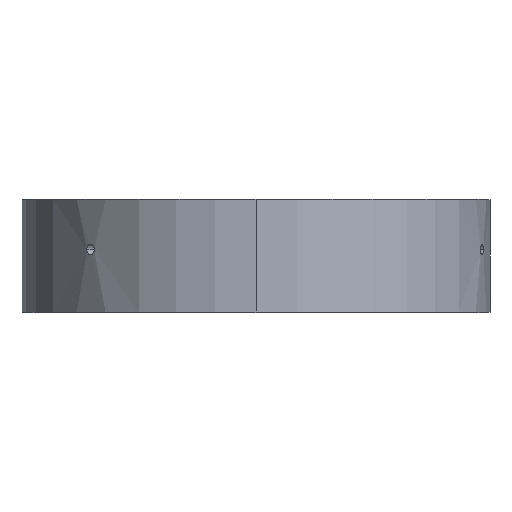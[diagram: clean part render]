
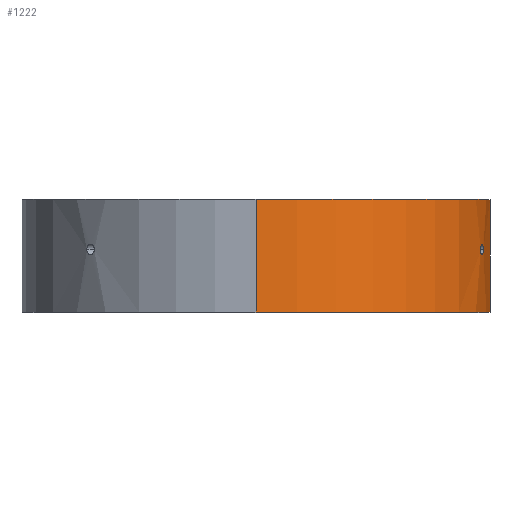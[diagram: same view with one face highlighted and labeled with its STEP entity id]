
A CAD part, top view. The second image highlights one B-rep face of the part: STEP entity #1222.
In plain terms, the highlighted cylindrical face has radius 56 mm (diameter 112 mm), a partial arc.
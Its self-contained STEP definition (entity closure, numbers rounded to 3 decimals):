
#17 = CARTESIAN_POINT ( 'NONE',  ( 54.007, 16.218, 14.809 ) ) ;
#61 = EDGE_CURVE ( 'NONE', #626, #2177, #1529, .T. ) ;
#82 = CARTESIAN_POINT ( 'NONE',  ( 53.764, 15.329, 15.666 ) ) ;
#106 = CARTESIAN_POINT ( 'NONE',  ( 0., 27., -56. ) ) ;
#138 = CARTESIAN_POINT ( 'NONE',  ( 54.134, 13.75, 14.337 ) ) ;
#150 = CARTESIAN_POINT ( 'NONE',  ( 54.364, 14.37, 13.436 ) ) ;
#160 = CARTESIAN_POINT ( 'NONE',  ( 53.825, 14.231, 15.457 ) ) ;
#205 = CARTESIAN_POINT ( 'NONE',  ( 0., 27., 0. ) ) ;
#267 = ORIENTED_EDGE ( 'NONE', *, *, #1849, .F. ) ;
#359 = CARTESIAN_POINT ( 'NONE',  ( 53.799, 15.63, 15.546 ) ) ;
#365 = CARTESIAN_POINT ( 'NONE',  ( 54.285, 13.999, 13.752 ) ) ;
#442 = AXIS2_PLACEMENT_3D ( 'NONE', #1423, #1382, #667 ) ;
#513 = DIRECTION ( 'NONE',  ( 0., -1., 0. ) ) ;
#528 = CARTESIAN_POINT ( 'NONE',  ( 53.755, 15., 15.698 ) ) ;
#537 = EDGE_CURVE ( 'NONE', #2177, #626, #953, .T. ) ;
#550 = CARTESIAN_POINT ( 'NONE',  ( 54.252, 16.092, 13.884 ) ) ;
#582 = CARTESIAN_POINT ( 'NONE',  ( 0., 0., 56. ) ) ;
#603 = CARTESIAN_POINT ( 'NONE',  ( 53.872, 15.942, 15.29 ) ) ;
#626 = VERTEX_POINT ( 'NONE', #1221 ) ;
#667 = DIRECTION ( 'NONE',  ( 0., 0., -1. ) ) ;
#701 = LINE ( 'NONE', #1821, #1339 ) ;
#709 = CARTESIAN_POINT ( 'NONE',  ( 53.926, 13.908, 15.1 ) ) ;
#711 = AXIS2_PLACEMENT_3D ( 'NONE', #1352, #1893, #1504 ) ;
#744 = CARTESIAN_POINT ( 'NONE',  ( 54.05, 13.75, 14.652 ) ) ;
#762 = CARTESIAN_POINT ( 'NONE',  ( 54.402, 15., 13.283 ) ) ;
#866 = DIRECTION ( 'NONE',  ( 0., -1., 0. ) ) ;
#907 = CARTESIAN_POINT ( 'NONE',  ( 53.755, 14.835, 15.698 ) ) ;
#924 = VERTEX_POINT ( 'NONE', #1604 ) ;
#941 = ORIENTED_EDGE ( 'NONE', *, *, #537, .F. ) ;
#952 = CARTESIAN_POINT ( 'NONE',  ( 54.394, 15.328, 13.315 ) ) ;
#953 = B_SPLINE_CURVE_WITH_KNOTS ( 'NONE', 3,
 ( #992, #2469, #952, #1129, #2273, #2096, #550, #1936, #980, #1750, #17, #1334, #1561, #2330, #603, #1321, #359, #82, #1976, #1776 ),
 .UNSPECIFIED., .F., .F.,
 ( 4, 2, 2, 2, 2, 2, 2, 2, 2, 4 ),
 ( 0.004, 0.004, 0.005, 0.005, 0.006, 0.006, 0.007, 0.007, 0.007, 0.008 ),
 .UNSPECIFIED. ) ;
#980 = CARTESIAN_POINT ( 'NONE',  ( 54.135, 16.25, 14.334 ) ) ;
#992 = CARTESIAN_POINT ( 'NONE',  ( 54.402, 15., 13.283 ) ) ;
#1109 = CARTESIAN_POINT ( 'NONE',  ( 53.799, 14.37, 15.546 ) ) ;
#1129 = CARTESIAN_POINT ( 'NONE',  ( 54.364, 15.628, 13.436 ) ) ;
#1202 = ORIENTED_EDGE ( 'NONE', *, *, #1742, .T. ) ;
#1210 = ORIENTED_EDGE ( 'NONE', *, *, #1971, .F. ) ;
#1221 = CARTESIAN_POINT ( 'NONE',  ( 53.755, 15., 15.698 ) ) ;
#1222 = ADVANCED_FACE ( 'NONE', ( #1369, #2134 ), #1530, .T. ) ;
#1229 = EDGE_LOOP ( 'NONE', ( #1202, #1902, #267, #1210 ) ) ;
#1321 = CARTESIAN_POINT ( 'NONE',  ( 53.825, 15.769, 15.456 ) ) ;
#1334 = CARTESIAN_POINT ( 'NONE',  ( 53.946, 16.124, 15.028 ) ) ;
#1339 = VECTOR ( 'NONE', #866, 1000. ) ;
#1352 = CARTESIAN_POINT ( 'NONE',  ( 0., 27., 0. ) ) ;
#1369 = FACE_BOUND ( 'NONE', #1884, .T. ) ;
#1382 = DIRECTION ( 'NONE',  ( 0., -1., 0. ) ) ;
#1423 = CARTESIAN_POINT ( 'NONE',  ( 0., 0., 0. ) ) ;
#1477 = CARTESIAN_POINT ( 'NONE',  ( 53.764, 14.673, 15.666 ) ) ;
#1504 = DIRECTION ( 'NONE',  ( 0., 0., -1. ) ) ;
#1507 = EDGE_CURVE ( 'NONE', #2169, #2193, #701, .T. ) ;
#1513 = CARTESIAN_POINT ( 'NONE',  ( 54.342, 14.233, 13.525 ) ) ;
#1520 = CIRCLE ( 'NONE', #442, 56. ) ;
#1529 = B_SPLINE_CURVE_WITH_KNOTS ( 'NONE', 3,
 ( #528, #907, #1477, #1109, #160, #1700, #709, #2472, #744, #138, #1678, #1879, #365, #1513, #150, #2277, #1688, #2463, #2484, #1714 ),
 .UNSPECIFIED., .F., .F.,
 ( 4, 2, 2, 2, 2, 2, 2, 2, 2, 4 ),
 ( 0., 0., 0.001, 0.001, 0.002, 0.002, 0.003, 0.003, 0.004, 0.004 ),
 .UNSPECIFIED. ) ;
#1530 = CYLINDRICAL_SURFACE ( 'NONE', #711, 56. ) ;
#1560 = DIRECTION ( 'NONE',  ( 0., 0., -1. ) ) ;
#1561 = CARTESIAN_POINT ( 'NONE',  ( 53.927, 16.085, 15.097 ) ) ;
#1604 = CARTESIAN_POINT ( 'NONE',  ( 0., 27., -56. ) ) ;
#1678 = CARTESIAN_POINT ( 'NONE',  ( 54.176, 13.782, 14.178 ) ) ;
#1680 = VECTOR ( 'NONE', #513, 1000. ) ;
#1688 = CARTESIAN_POINT ( 'NONE',  ( 54.392, 14.675, 13.322 ) ) ;
#1700 = CARTESIAN_POINT ( 'NONE',  ( 53.888, 14.001, 15.235 ) ) ;
#1704 = CARTESIAN_POINT ( 'NONE',  ( 0., 27., 56. ) ) ;
#1714 = CARTESIAN_POINT ( 'NONE',  ( 54.402, 15., 13.283 ) ) ;
#1742 = EDGE_CURVE ( 'NONE', #924, #2169, #2412, .T. ) ;
#1750 = CARTESIAN_POINT ( 'NONE',  ( 54.049, 16.25, 14.652 ) ) ;
#1776 = CARTESIAN_POINT ( 'NONE',  ( 53.755, 15., 15.698 ) ) ;
#1804 = AXIS2_PLACEMENT_3D ( 'NONE', #205, #1897, #1560 ) ;
#1821 = CARTESIAN_POINT ( 'NONE',  ( 0., 27., 56. ) ) ;
#1849 = EDGE_CURVE ( 'NONE', #1857, #2193, #1520, .T. ) ;
#1857 = VERTEX_POINT ( 'NONE', #1999 ) ;
#1879 = CARTESIAN_POINT ( 'NONE',  ( 54.251, 13.908, 13.885 ) ) ;
#1884 = EDGE_LOOP ( 'NONE', ( #2127, #941 ) ) ;
#1893 = DIRECTION ( 'NONE',  ( 0., -1., 0. ) ) ;
#1897 = DIRECTION ( 'NONE',  ( 0., -1., 0. ) ) ;
#1902 = ORIENTED_EDGE ( 'NONE', *, *, #1507, .T. ) ;
#1936 = CARTESIAN_POINT ( 'NONE',  ( 54.176, 16.217, 14.177 ) ) ;
#1971 = EDGE_CURVE ( 'NONE', #924, #1857, #2455, .T. ) ;
#1976 = CARTESIAN_POINT ( 'NONE',  ( 53.755, 15.165, 15.698 ) ) ;
#1999 = CARTESIAN_POINT ( 'NONE',  ( 0., 0., -56. ) ) ;
#2096 = CARTESIAN_POINT ( 'NONE',  ( 54.286, 15.999, 13.749 ) ) ;
#2127 = ORIENTED_EDGE ( 'NONE', *, *, #61, .F. ) ;
#2134 = FACE_OUTER_BOUND ( 'NONE', #1229, .T. ) ;
#2169 = VERTEX_POINT ( 'NONE', #1704 ) ;
#2177 = VERTEX_POINT ( 'NONE', #762 ) ;
#2193 = VERTEX_POINT ( 'NONE', #582 ) ;
#2273 = CARTESIAN_POINT ( 'NONE',  ( 54.342, 15.768, 13.526 ) ) ;
#2277 = CARTESIAN_POINT ( 'NONE',  ( 54.387, 14.597, 13.345 ) ) ;
#2330 = CARTESIAN_POINT ( 'NONE',  ( 53.89, 15.995, 15.228 ) ) ;
#2412 = CIRCLE ( 'NONE', #1804, 56. ) ;
#2455 = LINE ( 'NONE', #106, #1680 ) ;
#2463 = CARTESIAN_POINT ( 'NONE',  ( 54.4, 14.836, 13.291 ) ) ;
#2469 = CARTESIAN_POINT ( 'NONE',  ( 54.402, 15.163, 13.283 ) ) ;
#2472 = CARTESIAN_POINT ( 'NONE',  ( 54.006, 13.783, 14.811 ) ) ;
#2484 = CARTESIAN_POINT ( 'NONE',  ( 54.402, 14.918, 13.283 ) ) ;
